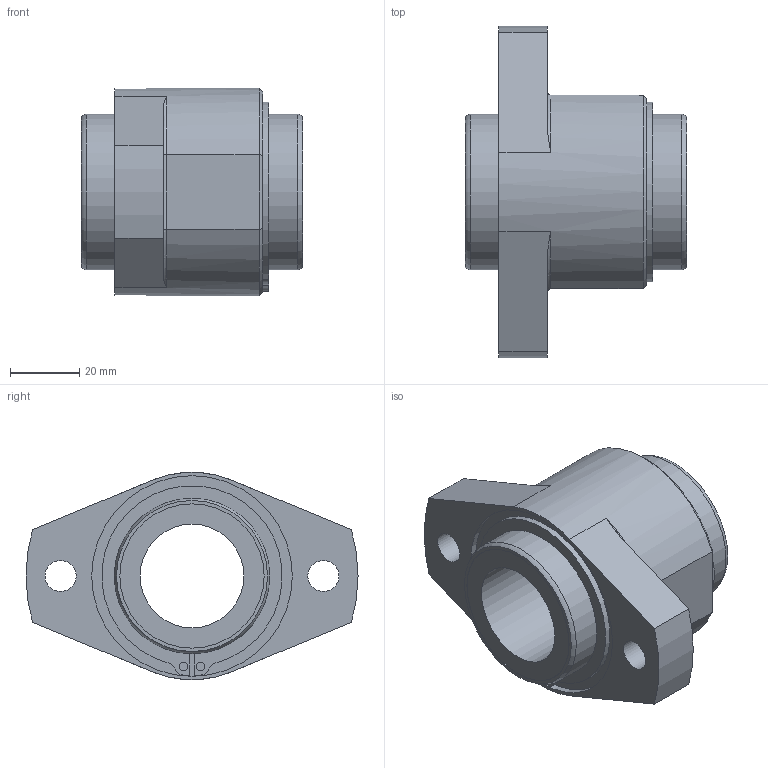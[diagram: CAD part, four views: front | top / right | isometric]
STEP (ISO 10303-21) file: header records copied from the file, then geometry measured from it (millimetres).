
FILE_DESCRIPTION((''),'2;1');
FILE_NAME('D:\製品 (図面)\カタログ用3D\シャフトブロック\LFH\LFH30.stp','2010-01-28T15:56:08',('Tsuchiya'),(''),'Autodesk Inventor 10','Autodesk Inventor 10','');
FILE_SCHEMA(('AUTOMOTIVE_DESIGN { 1 0 10303 214 1 1 1 1 }'));
Length unit declared in the file: millimetre
Products named in the file (1): LFH30
Bounding box: 64 x 96 x 60 mm (x, y, z)
Volume: 125427.3 mm3; surface area: 27055.1 mm2
Topology: 1 solids, 1 shells, 79 faces, 182 edges, 118 vertices
Faces by surface type: plane 26, cylinder 25, bspline 24, torus 2, cone 2
Full cylindrical faces by diameter (mm): 2.5 x2, 30 x1, 41.7 x2, 43 x2, 45 x2, 58 x1
Entity records: 2504 total; most frequent: CARTESIAN_POINT 784, DIRECTION 352, ORIENTED_EDGE 324, EDGE_CURVE 162, AXIS2_PLACEMENT_3D 146, VERTEX_POINT 116, EDGE_LOOP 116, CIRCLE 90
